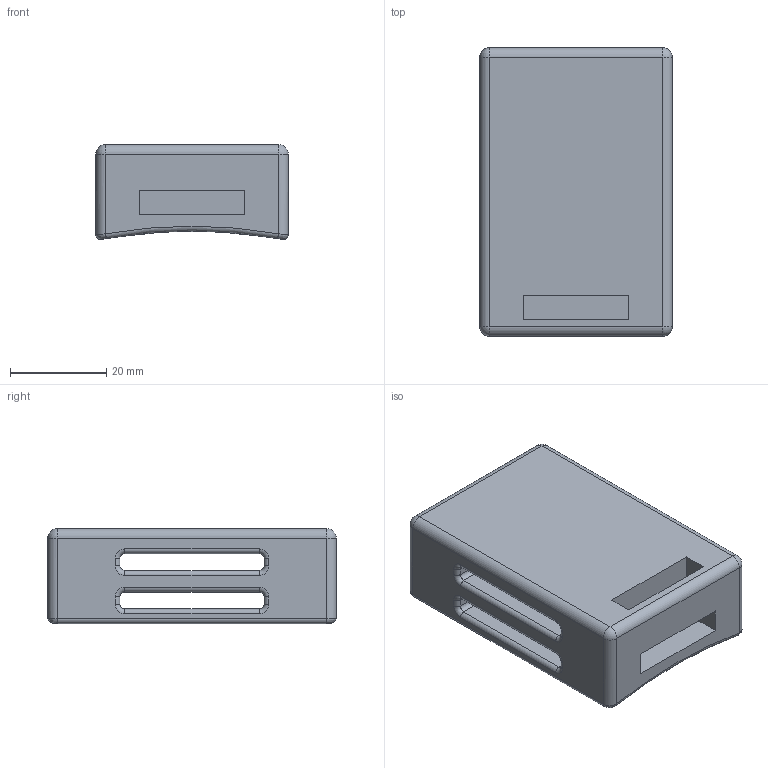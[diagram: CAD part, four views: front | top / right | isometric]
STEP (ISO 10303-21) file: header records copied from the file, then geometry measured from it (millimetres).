
FILE_DESCRIPTION(/* description */ (''),/* implementation_level */ '2;1');
FILE_NAME(/* name */ 'Cuff.step',/* time_stamp */ '2026-01-09T16:55:14+08:00',/* author */ (''),/* organization */ (''),/* preprocessor_version */ 'ST-DEVELOPER v20.1',/* originating_system */ 'Autodesk Translation Framework v14.21.0.0',/* authorisation */ '');
FILE_SCHEMA (('AUTOMOTIVE_DESIGN { 1 0 10303 214 3 1 1 }'));
Length unit declared in the file: centimetre
Products named in the file (1): 2026-01-08-08-58-10-739
Bounding box: 40 x 60 x 19.78 mm (x, y, z)
Volume: 20653.6 mm3; surface area: 11651.8 mm2
Topology: 1 solids, 1 shells, 137 faces, 318 edges, 184 vertices
Faces by surface type: cylinder 61, torus 36, plane 32, bspline 4, sphere 4
Entity records: 4092 total; most frequent: CARTESIAN_POINT 860, DIRECTION 726, ORIENTED_EDGE 636, EDGE_CURVE 318, AXIS2_PLACEMENT_3D 290, VERTEX_POINT 184, CIRCLE 156, EDGE_LOOP 148
